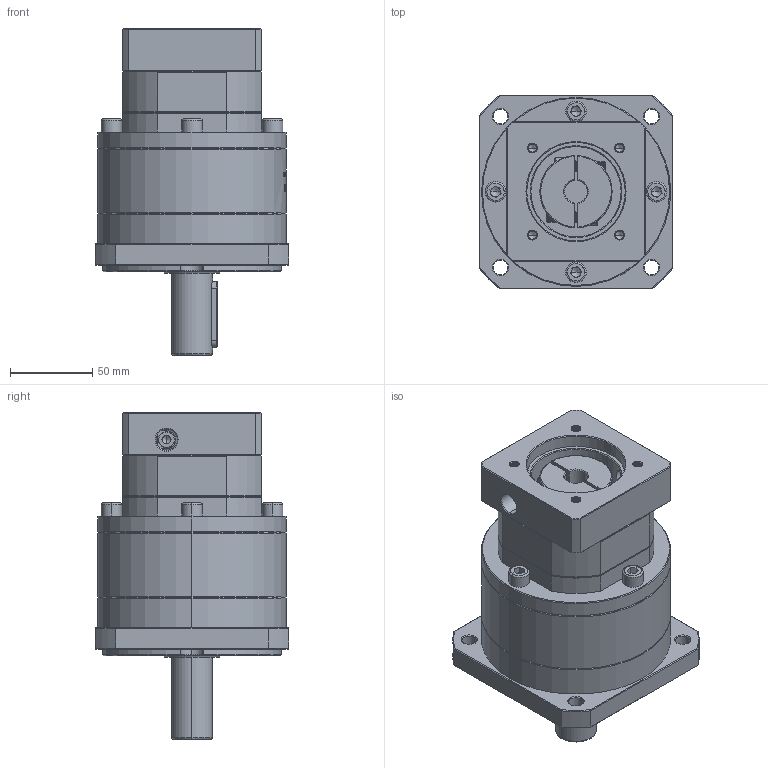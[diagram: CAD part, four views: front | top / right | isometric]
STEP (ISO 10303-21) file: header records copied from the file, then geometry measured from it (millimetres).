
FILE_DESCRIPTION (( 'STEP AP214' ), '1' );
FILE_NAME ('ZF120A-D25-L2-14-60-75-M6.step', '2023-03-07T15:00:13', ( '' ), ( 'Microsoft' ), 'SwSTEP 2.0', 'SolidWorks 2016', '' );
FILE_SCHEMA (( 'AUTOMOTIVE_DESIGN' ));
Length unit declared in the file: millimetre
Products named in the file (1): ZF120A-D25-L2-14-60-75-M6
Bounding box: 118 x 118 x 199 mm (x, y, z)
Volume: 1286805.3 mm3; surface area: 126597.6 mm2
Topology: 5 solids, 6 shells, 1945 faces, 5081 edges, 3228 vertices
Faces by surface type: plane 883, cylinder 406, bspline 321, cone 320, torus 15
Entity records: 105263 total; most frequent: CARTESIAN_POINT 39935, ORIENTED_EDGE 10102, DIRECTION 7801, EDGE_CURVE 5051, VERTEX_POINT 3228, LINE 2749, VECTOR 2749, AXIS2_PLACEMENT_3D 2526
